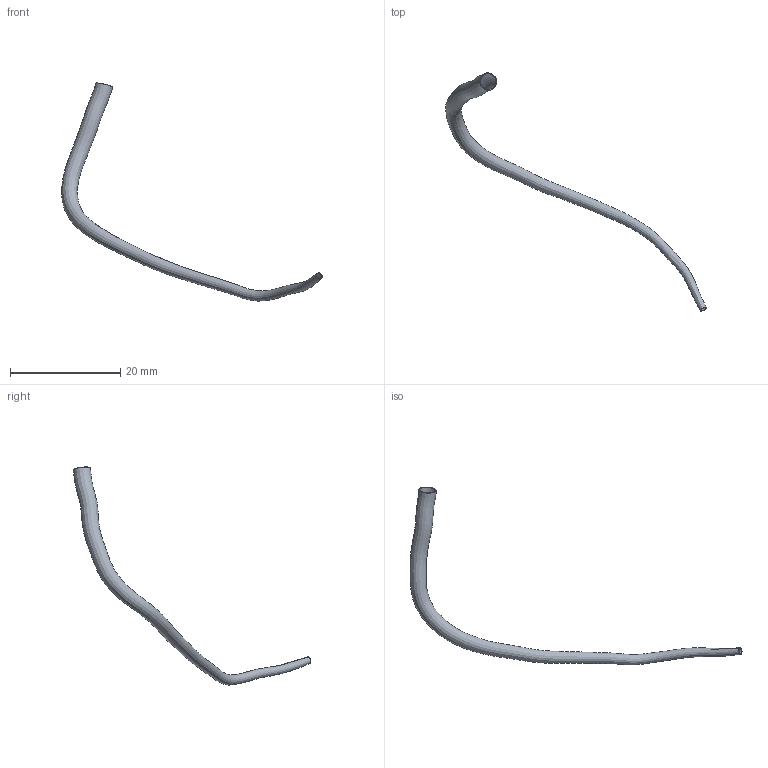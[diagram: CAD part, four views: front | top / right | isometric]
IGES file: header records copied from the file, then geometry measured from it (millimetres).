
Global section: file name: C:\Documents and Settings\Administrator\Desktop\FDA-Pig\Domestic LCA\Pig_000003\lad.seg.es.igs; native system: Rhinoceros ( May 19 2006 ); preprocessor: Trout Lake IGES 012 May 19 2006; date: 111205.182832; units: centimetre
Bounding box: 47.39 x 43.24 x 39.67 mm (x, y, z)
Surface area: 1246.7 mm2 (no closed solid volume)
Topology: 0 solids, 0 shells, 4 faces, 12 edges, 8 vertices
Faces by surface type: bspline 4
